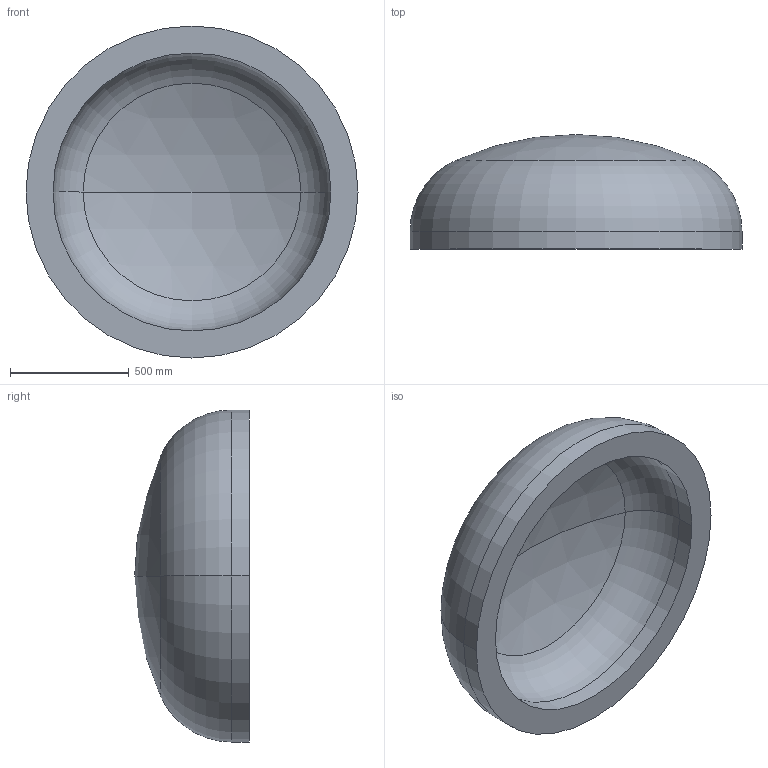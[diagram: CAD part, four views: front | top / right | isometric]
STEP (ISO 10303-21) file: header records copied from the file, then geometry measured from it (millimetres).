
FILE_DESCRIPTION (( 'STEP AP203' ), '1' );
FILE_NAME ('DIN 28013 Korbbogenform_-_Boden DIN 28013 - 1400 x 75 - I - s=114.step', '2016-07-01T10:31:30', ( '' ), ( '' ), 'SwSTEP 2.0', 'SolidWorks 2013', '' );
FILE_SCHEMA (( 'CONFIG_CONTROL_DESIGN' ));
Length unit declared in the file: millimetre
Products named in the file (1): DIN 28013 Korbbogenform_-_Boden DIN 28013 - 1400 x 75 - I - s=114
Bounding box: 1400 x 483.54 x 1400 mm (x, y, z)
Volume: 253874515.5 mm3; surface area: 4941726.8 mm2
Topology: 1 solids, 1 shells, 13 faces, 24 edges, 14 vertices
Faces by surface type: torus 4, cylinder 4, sphere 4, plane 1
Entity records: 407 total; most frequent: DIRECTION 72, CARTESIAN_POINT 52, ORIENTED_EDGE 48, AXIS2_PLACEMENT_3D 34, EDGE_CURVE 24, CIRCLE 20, VERTEX_POINT 14, EDGE_LOOP 14
